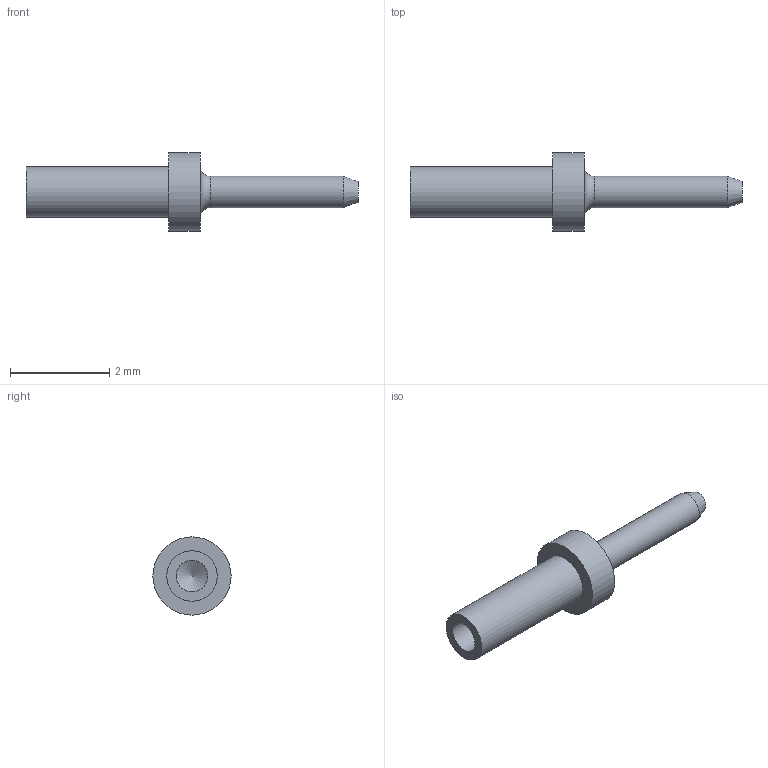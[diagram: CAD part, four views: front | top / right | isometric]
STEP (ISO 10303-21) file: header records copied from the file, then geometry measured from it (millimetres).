
FILE_DESCRIPTION(/* description */ (''),/* implementation_level */ '2;1');
FILE_NAME(/* name */ 'Z:\STEP folder\460323103.ipt.stp',/* time_stamp */ '2016-12-21T13:05:53+00:00',/* author */ ('Paul Karlsons'),/* organization */ (''),/* preprocessor_version */ 'ST-DEVELOPER v15.2',/* originating_system */ 'Autodesk Inventor 2014',/* authorisation */ '');
FILE_SCHEMA (('AUTOMOTIVE_DESIGN { 1 0 10303 214 3 1 1 }'));
Length unit declared in the file: millimetre
Products named in the file (1): 460323103
Bounding box: 6.68 x 1.57 x 1.57 mm (x, y, z)
Volume: 4.3 mm3; surface area: 23.9 mm2
Topology: 1 solids, 1 shells, 11 faces, 18 edges, 11 vertices
Faces by surface type: cylinder 4, plane 4, cone 2, torus 1
Full cylindrical faces by diameter (mm): 0.635 x2, 1.016 x1, 1.574 x1
Entity records: 235 total; most frequent: DIRECTION 44, CARTESIAN_POINT 32, AXIS2_PLACEMENT_3D 22, EDGE_LOOP 20, ORIENTED_EDGE 20, ADVANCED_FACE 11, FACE_BOUND 10, FACE_OUTER_BOUND 10
